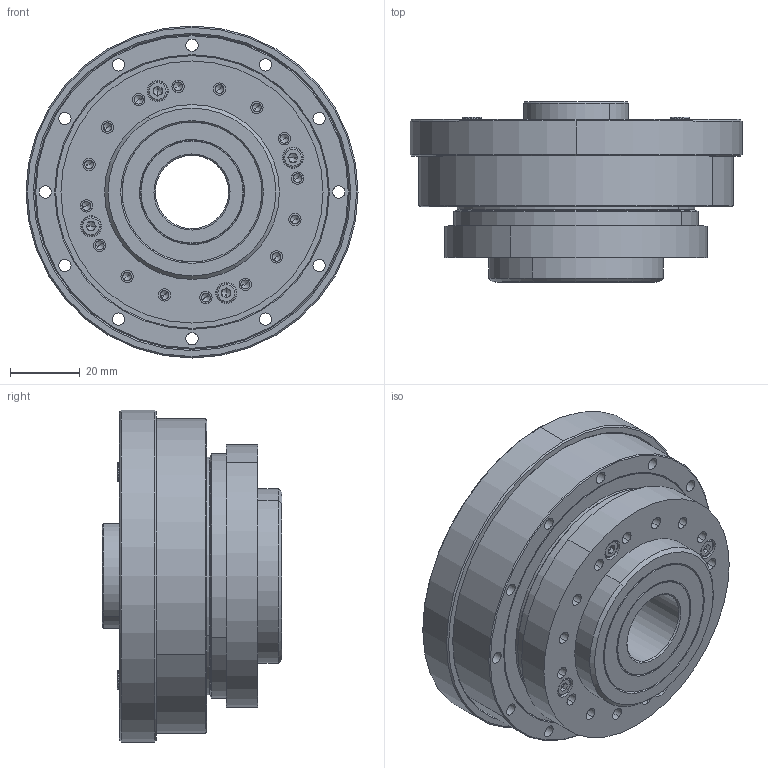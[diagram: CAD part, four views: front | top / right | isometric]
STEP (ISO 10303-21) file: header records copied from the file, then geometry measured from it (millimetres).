
FILE_DESCRIPTION (( 'STEP AP214' ), '1' );
FILE_NAME ('SHF-20-II.STEP', '2021-07-04T03:23:48', ( 'PC' ), ( 'Microsoft' ), 'SwSTEP 2.0', 'SolidWorks 2016', '' );
FILE_SCHEMA (( 'AUTOMOTIVE_DESIGN' ));
Length unit declared in the file: millimetre
Products named in the file (20): 交叉轴承-内圈-STRU-20-90-宽175-V0; 交叉轴承-外圈-STRU-20-90-宽175; 楊擘2; O形密封圈-Φ75XΦ18; SHF-20-II; Oﾐﾎﾃﾜｷ篳ｦ-ｦｵ55Xｦｵ0.8SLDPRT; hexagon socket head cap screws gb_GB_FASTENER_SCREWS_HSHCS M3X8-S; 蚐猾40X30X5; 楊擘1; 荎秶試謫-STXB-20050-01; 20柔性轴承; 芧謫-STXB-20-050; 英制柔轮-STXB-20050-01; 蝠脫粣創-STRU-20-90-175X朴90-V0; hexagon socket head cap screws gb_GB_FASTENER_SCREWS_HSHCS M2.5X8-C; 20眄璃; 交叉轴承隔块-20-90-反向-V0; 蝠脫粣創路輸-20-90-V0; 蝠脫粣創-幗赽-朴5; 蝠脫粣創-蚐猾-STRU-20-90
Assembly tree (97 placements, depth 3):
  SHF-20-II
    楊擘2
    蝠脫粣創-STRU-20-90-175X朴90-V0
      交叉轴承-外圈-STRU-20-90-宽175
      交叉轴承-内圈-STRU-20-90-宽175-V0
      蝠脫粣創-蚐猾-STRU-20-90
      蝠脫粣創-幗赽-朴5  x36
      蝠脫粣創路輸-20-90-V0  x18
      交叉轴承隔块-20-90-反向-V0  x18
      20眄璃
      hexagon socket head cap screws gb_GB_FASTENER_SCREWS_HSHCS M2.5X8-C
    英制柔轮-STXB-20050-01
    芧謫-STXB-20-050
    20柔性轴承
    荎秶試謫-STXB-20050-01
    楊擘1
    蚐猾40X30X5  x2
    hexagon socket head cap screws gb_GB_FASTENER_SCREWS_HSHCS M3X8-S  x8
    Oﾐﾎﾃﾜｷ篳ｦ-ｦｵ55Xｦｵ0.8SLDPRT
    O形密封圈-Φ75XΦ18  x2
Bounding box: 95 x 51.5 x 95 mm (x, y, z)
Volume: 172604.8 mm3; surface area: 131943.7 mm2
Topology: 97 solids, 97 shells, 2773 faces, 5925 edges, 3370 vertices
Faces by surface type: cone 1162, cylinder 954, plane 591, torus 62, bspline 4
Entity records: 28778 total; most frequent: DIRECTION 5188, CARTESIAN_POINT 4883, ORIENTED_EDGE 4070, AXIS2_PLACEMENT_3D 2182, EDGE_CURVE 2035, VERTEX_POINT 1241, EDGE_LOOP 1194, CIRCLE 1170
